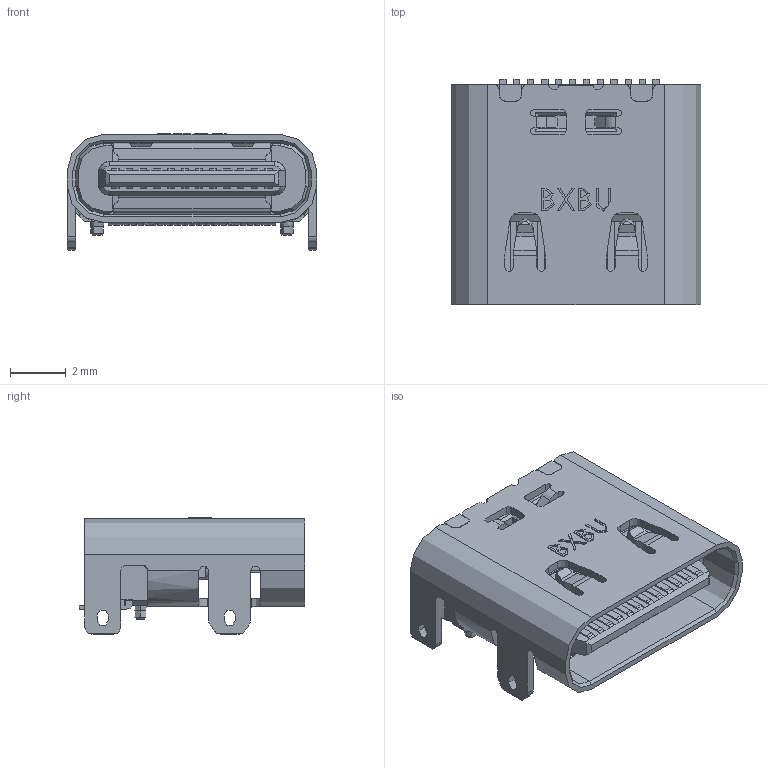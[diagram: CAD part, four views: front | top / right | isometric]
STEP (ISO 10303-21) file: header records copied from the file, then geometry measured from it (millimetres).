
FILE_DESCRIPTION (( 'STEP AP214' ), '1' );
FILE_NAME ('U5312-24PNTA7.9L.STEP', '2026-07-30T05:53:00', ( '' ), ( '' ), 'SwSTEP 2.0', 'SolidWorks 2024', '' );
FILE_SCHEMA (( 'AUTOMOTIVE_DESIGN' ));
Length unit declared in the file: millimetre
Products named in the file (1): U5312-24PNTA7.9L
Bounding box: 8.94 x 8.1 x 4.19 mm (x, y, z)
Topology: 5 solids, 8 shells, 1456 faces, 4257 edges, 2773 vertices
Faces by surface type: plane 988, cylinder 359, bspline 57, cone 28, sphere 24
Full cylindrical faces by diameter (mm): 1.2 x1
Entity records: 50111 total; most frequent: CARTESIAN_POINT 11369, ORIENTED_EDGE 8390, DIRECTION 7709, EDGE_CURVE 4195, VECTOR 3157, LINE 3157, VERTEX_POINT 2746, AXIS2_PLACEMENT_3D 2276
